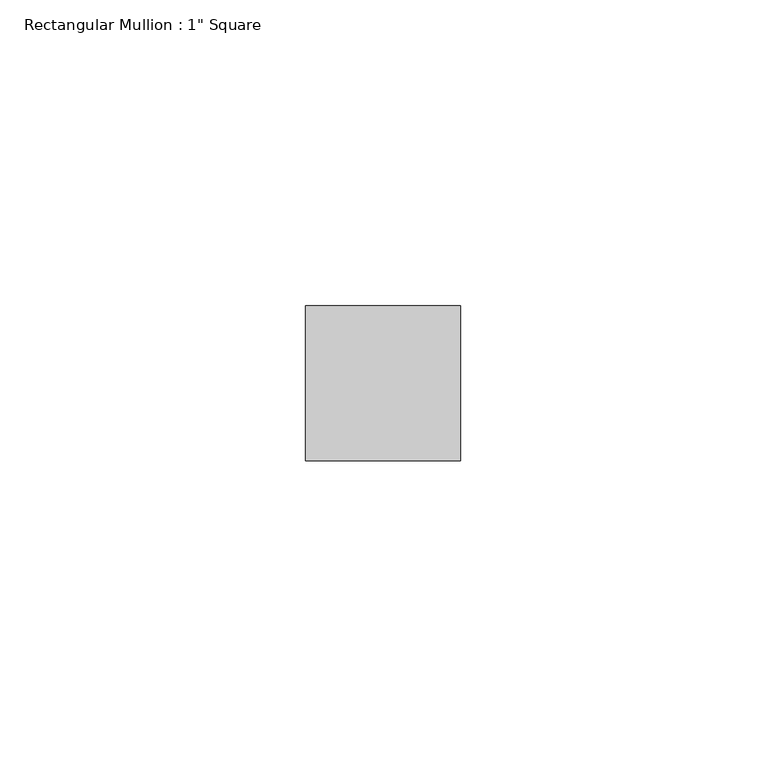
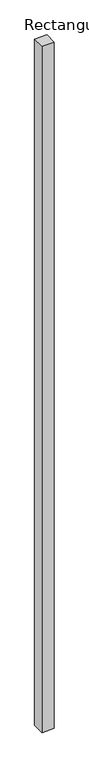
"""IFC4 building model written with IfcOpenShell, lengths in millimetres: member geometry."""

from ifc_helpers import new_model, si_unit, frame, origin, place, context, project, spatial, polyline, outline, extrude, source, transform, mapped, element, save


def member_11ccf896(model_context):
    return source(origin(), model_context, "Body", "SweptSolid", [
        extrude(outline(polyline([(12.7, 12.7), (12.7, -12.7), (-12.7, -12.7), (-12.7, 12.7), (12.7, 12.7)])), frame((0.0, 0.0, -1487.9509175), z_axis=(0.0, 0.0, 1.0), x_axis=(1.0, 0.0, 0.0)), (0.0, 0.0, 1.0), 1487.9509175),
    ])


if __name__ == "__main__":
    model = new_model("IFC4")
    model_context = context("Model", 3, world=origin())
    ifc_project = project(units=[si_unit("LENGTHUNIT", "METRE", prefix="MILLI")], contexts=[model_context])
    site = spatial("IfcSite", under=ifc_project)
    building = spatial("IfcBuilding", under=site)
    placement = place(None, origin())
    member_shape = member_11ccf896(model_context)
    element("IfcMember", 1, ObjectType="Rectangular Mullion : 1\" Square", at=placement, inside=building, context=model_context, shape_type="MappedRepresentation", body=[
        mapped(member_shape, transform((0.0, 0.0, 0.0), x_axis=(1.0, 0.0, 0.0), y_axis=(0.0, 1.0, 0.0), z_axis=(0.0, 0.0, 1.0))),
    ])
    save(model, "model.ifc")
